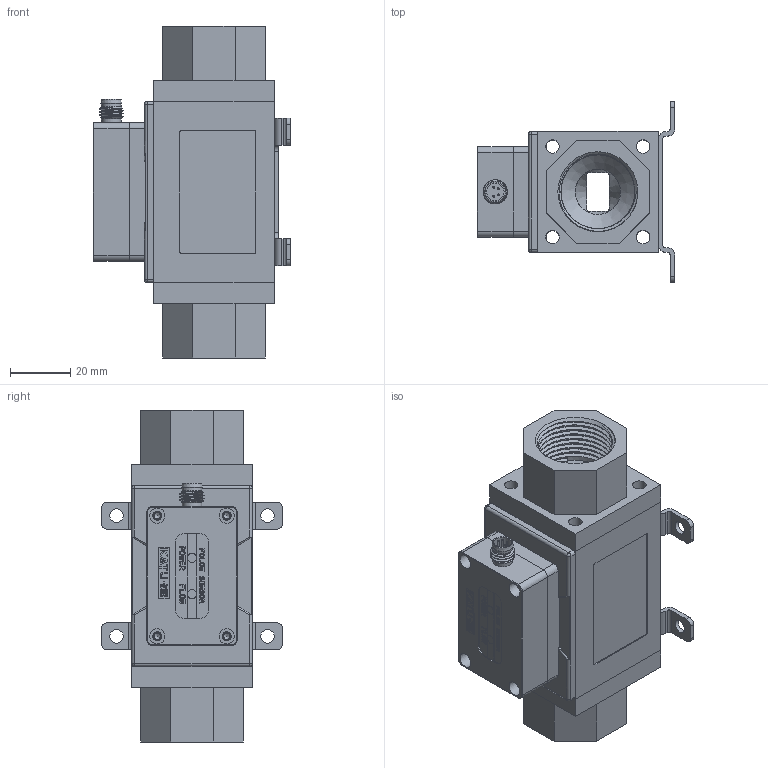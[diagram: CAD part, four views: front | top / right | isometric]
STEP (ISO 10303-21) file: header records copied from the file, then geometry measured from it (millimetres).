
FILE_DESCRIPTION( (''), '2;1');
FILE_NAME( 'QEKJ_40L_R3-4_M12_bracket.step', '2023-06-19T14:17:09+08:00', (''), (''), '', '', '');
FILE_SCHEMA (('CONFIG_CONTROL_DESIGN'));
Length unit declared in the file: millimetre
Products named in the file (1): QEKJ 40L_R3-4_M12_bracket
Bounding box: 65.5 x 60 x 110 mm (x, y, z)
Volume: 80668.6 mm3; surface area: 63907.8 mm2
Topology: 6 solids, 6 shells, 1090 faces, 2974 edges, 1969 vertices
Faces by surface type: plane 712, cylinder 212, extrusion 102, cone 44, bspline 10, sphere 8, torus 2
Full cylindrical faces by diameter (mm): 0.6 x4, 1.6 x2, 2 x1, 2.05 x7, 3 x9, 3.3 x4, 4 x5, 4.5 x24, 5 x4, 5.8 x1, 6 x2, 6.5 x2, 7 x1, 8 x7, 9.5 x1, 15 x2, 23 x4
Entity records: 39207 total; most frequent: CARTESIAN_POINT 12526, ORIENTED_EDGE 5558, DIRECTION 4992, EDGE_CURVE 2779, VECTOR 2106, LINE 2004, VERTEX_POINT 1910, AXIS2_PLACEMENT_3D 1443
